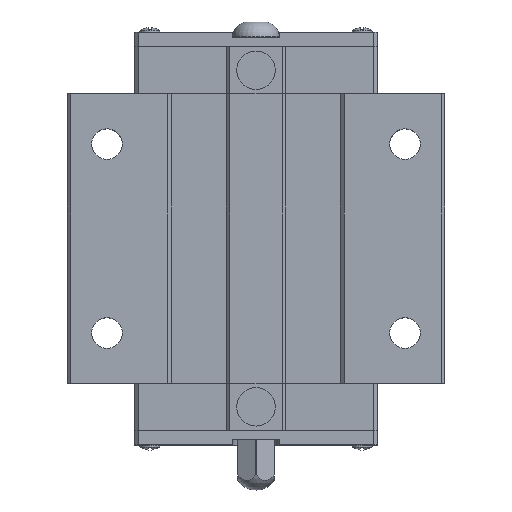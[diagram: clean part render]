
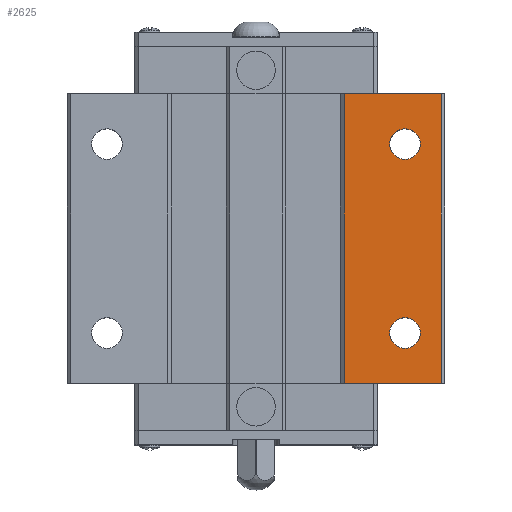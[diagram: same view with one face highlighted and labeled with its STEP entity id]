
A CAD part, top view. The second image highlights one B-rep face of the part: STEP entity #2625.
In plain terms, the highlighted planar face has unit normal (0, 0, 1).
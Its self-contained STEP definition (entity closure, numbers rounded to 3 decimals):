
#1891=VERTEX_POINT('',#5228);
#1961=VERTEX_POINT('',#5303);
#2139=VERTEX_POINT('',#5495);
#2349=EDGE_CURVE('',#1891,#3709,#5726,.T.);
#2453=VERTEX_POINT('',#5844);
#2515=EDGE_CURVE('',#4165,#1891,#5913,.T.);
#2625=ADVANCED_FACE('',(#6039,#6040,#6041),#6042,.T.);
#2677=EDGE_CURVE('',#4647,#1961,#6100,.T.);
#3239=EDGE_CURVE('',#4551,#2453,#6719,.T.);
#3455=EDGE_CURVE('',#2139,#3709,#6959,.T.);
#3585=EDGE_CURVE('',#2139,#4165,#7100,.T.);
#3709=VERTEX_POINT('',#7237);
#3827=EDGE_CURVE('',#1961,#4647,#7365,.T.);
#4165=VERTEX_POINT('',#7728);
#4551=VERTEX_POINT('',#8152);
#4555=EDGE_CURVE('',#2453,#4551,#8156,.T.);
#4647=VERTEX_POINT('',#8254);
#5228=CARTESIAN_POINT('',(12.125,8.5,24.0));
#5303=CARTESIAN_POINT('',(18.4,41.4,24.0));
#5495=CARTESIAN_POINT('',(25.5,48.3,24.0));
#5726=LINE('',#9749,#9750);
#5844=CARTESIAN_POINT('',(18.4,15.4,24.0));
#5913=LINE('',#10051,#10052);
#6039=FACE_OUTER_BOUND('',#10226,.T.);
#6040=FACE_BOUND('',#10227,.T.);
#6041=FACE_BOUND('',#10228,.T.);
#6042=PLANE('',#10229);
#6100=CIRCLE('',#10298,2.1);
#6719=CIRCLE('',#11236,2.1);
#6959=LINE('',#11597,#11598);
#7100=LINE('',#11847,#11848);
#7237=CARTESIAN_POINT('',(25.5,8.5,24.0));
#7365=CIRCLE('',#12300,2.1);
#7728=CARTESIAN_POINT('',(12.125,48.3,24.0));
#8152=CARTESIAN_POINT('',(22.6,15.4,24.0));
#8156=CIRCLE('',#13510,2.1);
#8254=CARTESIAN_POINT('',(22.6,41.4,24.0));
#9749=CARTESIAN_POINT('',(25.5,8.5,24.0));
#9750=VECTOR('',#14940,1.0);
#10051=CARTESIAN_POINT('',(12.125,58.25,24.0));
#10052=VECTOR('',#15138,1.0);
#10226=EDGE_LOOP('',(#15313,#15314,#15315,#15316));
#10227=EDGE_LOOP('',(#15317,#15318));
#10228=EDGE_LOOP('',(#15319,#15320));
#10229=AXIS2_PLACEMENT_3D('',#15321,#15322,#15323);
#10298=AXIS2_PLACEMENT_3D('',#15400,#15401,#15402);
#11236=AXIS2_PLACEMENT_3D('',#16041,#16042,#16043);
#11597=CARTESIAN_POINT('',(25.5,48.3,24.0));
#11598=VECTOR('',#16358,1.0);
#11847=CARTESIAN_POINT('',(25.5,48.3,24.0));
#11848=VECTOR('',#16547,1.0);
#12300=AXIS2_PLACEMENT_3D('',#16820,#16821,#16822);
#13510=AXIS2_PLACEMENT_3D('',#17638,#17639,#17640);
#14940=DIRECTION('',(1.0,0.0,0.0));
#15138=DIRECTION('',(0.0,-1.0,0.0));
#15313=ORIENTED_EDGE('',*,*,#2515,.T.);
#15314=ORIENTED_EDGE('',*,*,#2349,.T.);
#15315=ORIENTED_EDGE('',*,*,#3455,.F.);
#15316=ORIENTED_EDGE('',*,*,#3585,.T.);
#15317=ORIENTED_EDGE('',*,*,#2677,.T.);
#15318=ORIENTED_EDGE('',*,*,#3827,.T.);
#15319=ORIENTED_EDGE('',*,*,#3239,.T.);
#15320=ORIENTED_EDGE('',*,*,#4555,.T.);
#15321=CARTESIAN_POINT('',(-25.5,48.3,24.0));
#15322=DIRECTION('',(0.0,0.0,1.0));
#15323=DIRECTION('',(-1.0,0.0,0.0));
#15400=CARTESIAN_POINT('',(20.5,41.4,24.0));
#15401=DIRECTION('',(0.0,0.0,-1.0));
#15402=DIRECTION('',(1.0,0.0,0.0));
#16041=CARTESIAN_POINT('',(20.5,15.4,24.0));
#16042=DIRECTION('',(0.0,0.0,-1.0));
#16043=DIRECTION('',(1.0,0.0,0.0));
#16358=DIRECTION('',(0.0,-1.0,0.0));
#16547=DIRECTION('',(-1.0,0.0,0.0));
#16820=CARTESIAN_POINT('',(20.5,41.4,24.0));
#16821=DIRECTION('',(0.0,0.0,-1.0));
#16822=DIRECTION('',(1.0,0.0,0.0));
#17638=CARTESIAN_POINT('',(20.5,15.4,24.0));
#17639=DIRECTION('',(0.0,0.0,-1.0));
#17640=DIRECTION('',(1.0,0.0,0.0));
